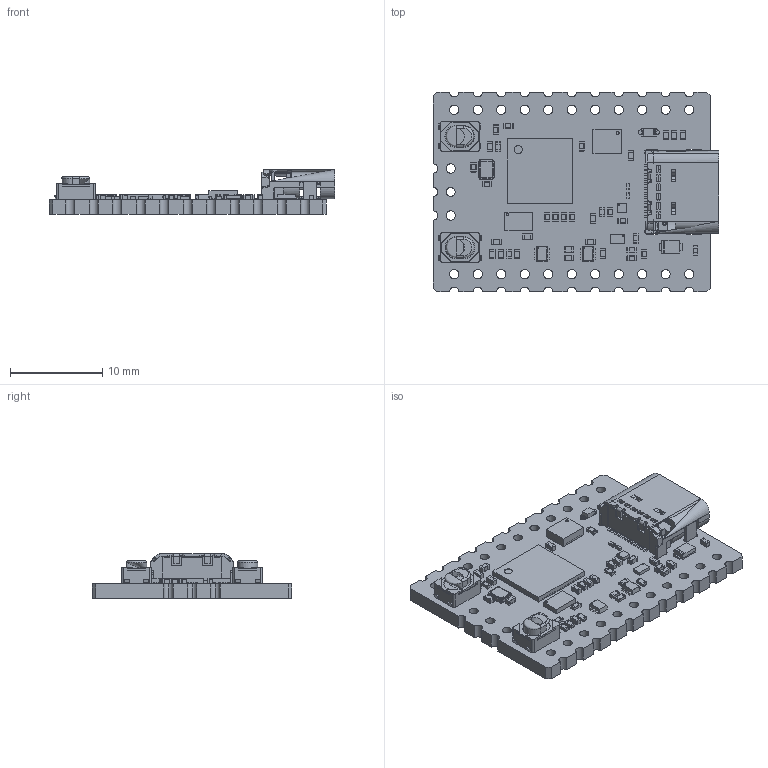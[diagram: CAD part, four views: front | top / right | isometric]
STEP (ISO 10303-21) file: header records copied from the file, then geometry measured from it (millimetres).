
FILE_DESCRIPTION(('Open CASCADE Model'),'2;1');
FILE_NAME('Open CASCADE Shape Model','2023-02-13T10:04:59',('Author'),( 'Open CASCADE'),'Open CASCADE STEP processor 7.5','Open CASCADE 7.5' ,'Unknown');
FILE_SCHEMA(('AUTOMOTIVE_DESIGN { 1 0 10303 214 1 1 1 1 }'));
Products named in the file (1): PCB
Bounding box: 30.93 x 21.59 x 4.84 mm (x, y, z)
Volume: 1038 mm3; surface area: 2783.8 mm2
Topology: 247 solids, 1285 shells, 4396 faces, 13241 edges, 10116 vertices
Faces by surface type: plane 3364, cylinder 802, sphere 184, torus 24, cone 16, bspline 6
Full cylindrical faces by diameter (mm): 0.125 x1, 0.15 x3, 0.325 x1, 0.5 x2, 0.6 x1, 0.8 x2, 0.875 x1, 1 x25, 1.96 x1, 2.2 x2, 2.56 x1
Entity records: 155802 total; most frequent: CARTESIAN_POINT 29151, DIRECTION 23819, ORIENTED_EDGE 20333, EDGE_CURVE 12913, LINE 10659, VECTOR 10659, VERTEX_POINT 10082, AXIS2_PLACEMENT_3D 6580
